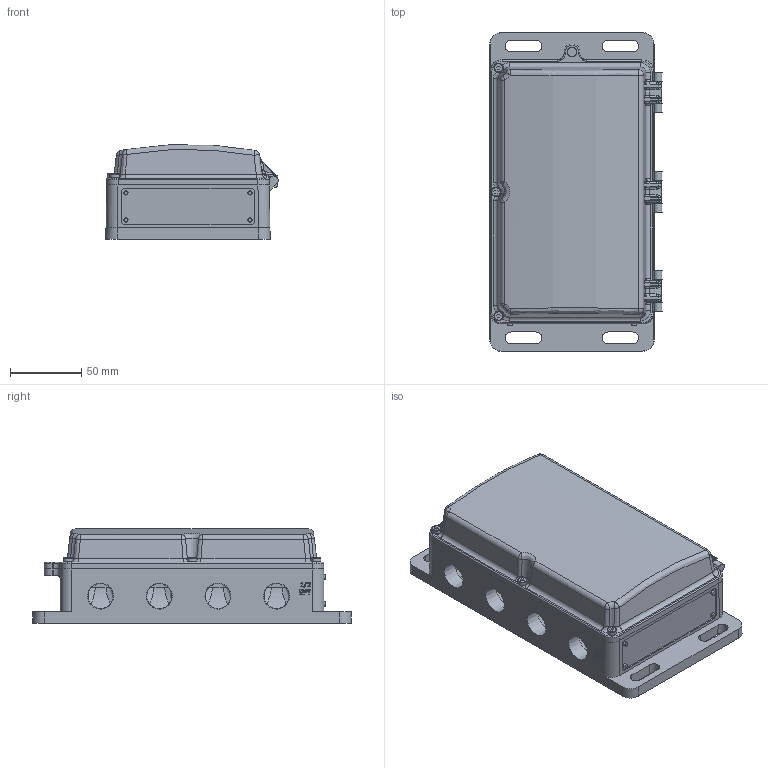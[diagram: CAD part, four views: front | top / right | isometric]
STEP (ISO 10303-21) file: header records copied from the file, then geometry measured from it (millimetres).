
FILE_DESCRIPTION(/* description */ ('HOUSING, FN, 8-NPT SILVER'),/* implementation_level */ '2;1');
FILE_NAME(/* name */ 'C:\vault\Engineering Documents\Work In Progress\BKunz\Platform STP files for Website\Updated with conduits\FN Updated STP.stp',/* time_stamp */ '2017-08-07T14:31:14-05:00',/* author */ ('ffmkunzbob'),/* organization */ (''),/* preprocessor_version */ 'ST-DEVELOPER v16.1',/* originating_system */ 'Autodesk Inventor 2016',/* authorisation */ '');
FILE_SCHEMA (('AUTOMOTIVE_DESIGN { 1 0 10303 214 3 1 1 }'));
Length unit declared in the file: inch
Products named in the file (27): 401540; 428088; 605129; 401480; 408828; 401542; 418253; 414757; 418260; 402206; 436033; 436035; 441021; 436036; 441022; 402235; 418213; 456625; 408940; 434305; 456565; 316009; 402205; 432033fb; 604735; 408988; Assembly6 (LevelofDetail1)
Assembly tree (59 placements, depth 5):
  Assembly6 (LevelofDetail1)
    605129
      401540
      428088  x2
    316009
      401542
        401480
        408828  x2
      418260
        418253
        414757  x8
      402235
        402206
        436036  x6
          436033
          436035
          441021
        441022  x6
      418213
      456625
      408940  x4
      434305  x8
      456565
    604735
      402205
      408828  x3
      432033fb
    408988
Bounding box: 121.3 x 224.1 x 66.33 mm (x, y, z)
Volume: 643952.8 mm3; surface area: 337400.7 mm2
Topology: 67 solids, 75 shells, 8296 faces, 21794 edges, 13706 vertices
Faces by surface type: plane 5505, cylinder 1605, bspline 579, sphere 310, cone 161, torus 136
Full cylindrical faces by diameter (mm): 1.27 x24, 1.905 x24, 2.159 x24, 2.286 x13, 2.362 x12, 2.388 x13, 2.438 x4, 2.54 x12, 2.921 x4, 3.175 x36, 3.251 x7, 3.302 x2, 3.429 x24, 3.505 x5, 3.81 x24, 3.962 x5, 4.166 x1, 4.191 x3, 4.445 x3, 6.096 x2, 6.223 x2, 6.35 x4, 6.604 x5, 8.179 x1, 9.525 x2
Entity records: 112870 total; most frequent: CARTESIAN_POINT 28807, ORIENTED_EDGE 17612, DIRECTION 16280, EDGE_CURVE 8796, LINE 6084, VECTOR 6084, VERTEX_POINT 5749, AXIS2_PLACEMENT_3D 5098
